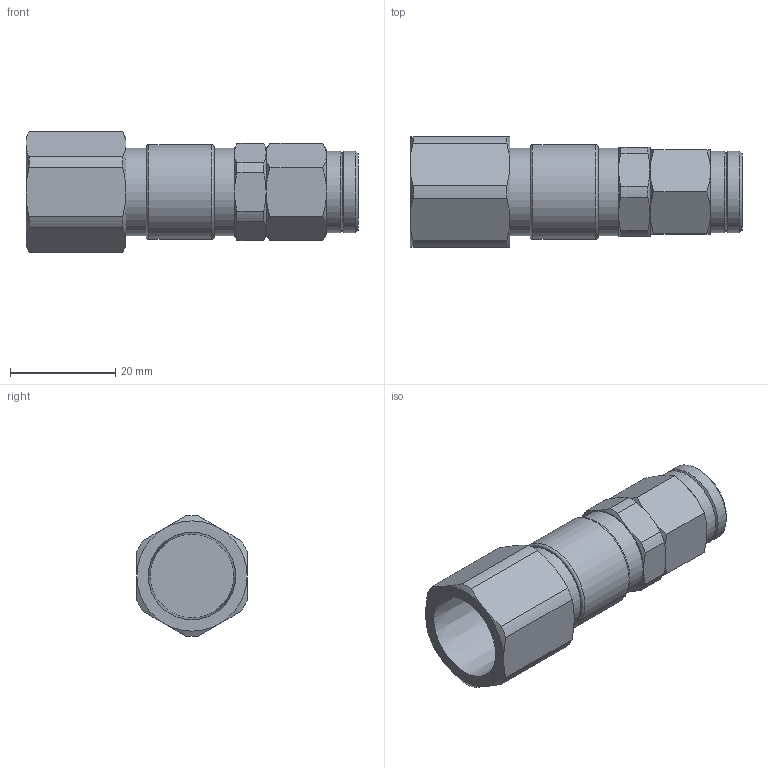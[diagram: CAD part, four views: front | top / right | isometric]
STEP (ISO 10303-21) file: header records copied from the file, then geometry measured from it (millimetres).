
FILE_DESCRIPTION(/* description */ (''),/* implementation_level */ '2;1');
FILE_NAME(/* name */ 'E:\2013年度版　3D-DATA\【18】 FREE-ANGLE FITTING\[02] FAF-H\[02] 2FA3F-6.5H.stp',/* time_stamp */ '2013-08-05T15:36:29+09:00',/* author */ ('takahashi-pc2'),/* organization */ (''),/* preprocessor_version */ 'ST-DEVELOPER v15.2',/* originating_system */ 'Autodesk Inventor 2014',/* authorisation */ '');
FILE_SCHEMA (('AUTOMOTIVE_DESIGN { 1 0 10303 214 3 1 1 }'));
Length unit declared in the file: millimetre
Products named in the file (4): SHAFT2; 2-3F; 2-6.5H; [02] 2FA3F-6.5H
Bounding box: 63.2 x 21 x 22.99 mm (x, y, z)
Volume: 13899.8 mm3; surface area: 6762.5 mm2
Topology: 3 solids, 3 shells, 98 faces, 217 edges, 131 vertices
Faces by surface type: cone 42, plane 30, cylinder 20, sphere 4, torus 2
Full cylindrical faces by diameter (mm): 5 x2, 10 x1, 15.5 x2, 16.7 x2, 18 x1
Entity records: 2506 total; most frequent: CARTESIAN_POINT 559, DIRECTION 412, ORIENTED_EDGE 376, AXIS2_PLACEMENT_3D 191, EDGE_CURVE 188, EDGE_LOOP 124, VERTEX_POINT 122, ADVANCED_FACE 98
